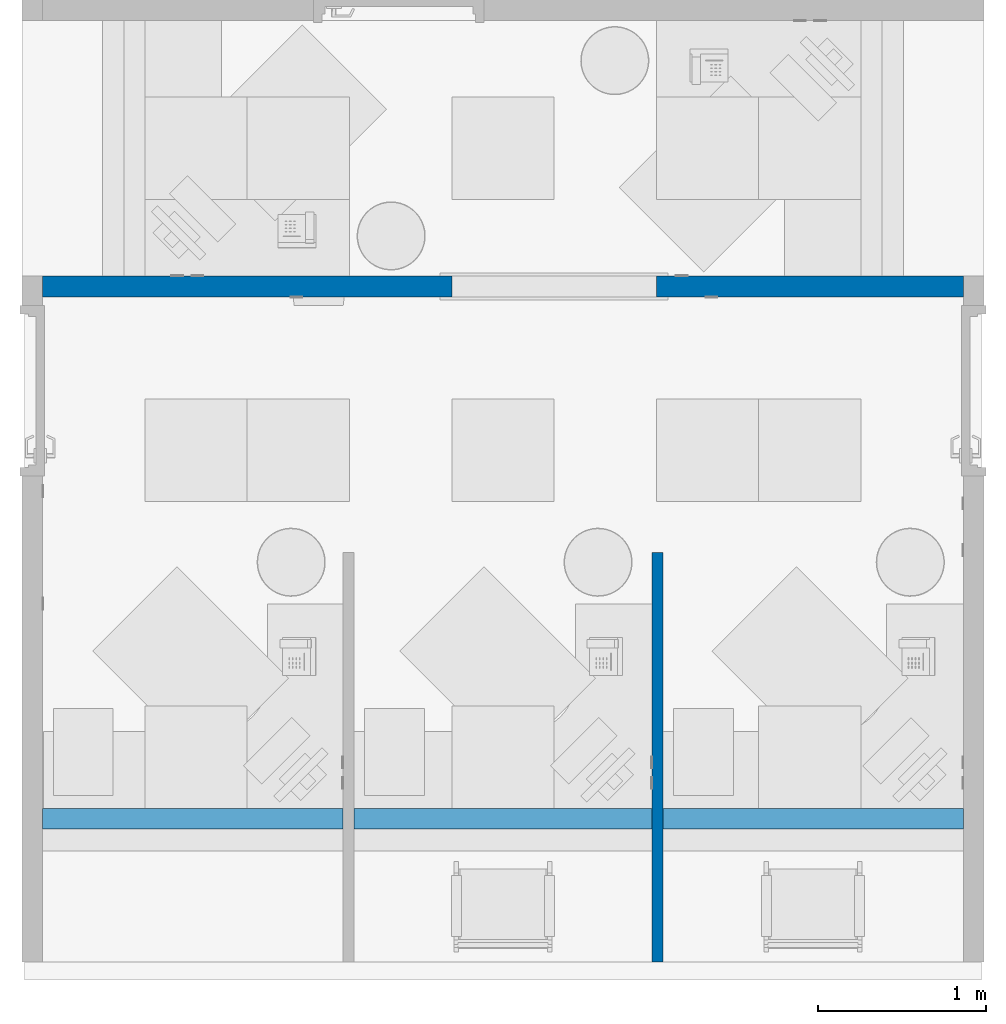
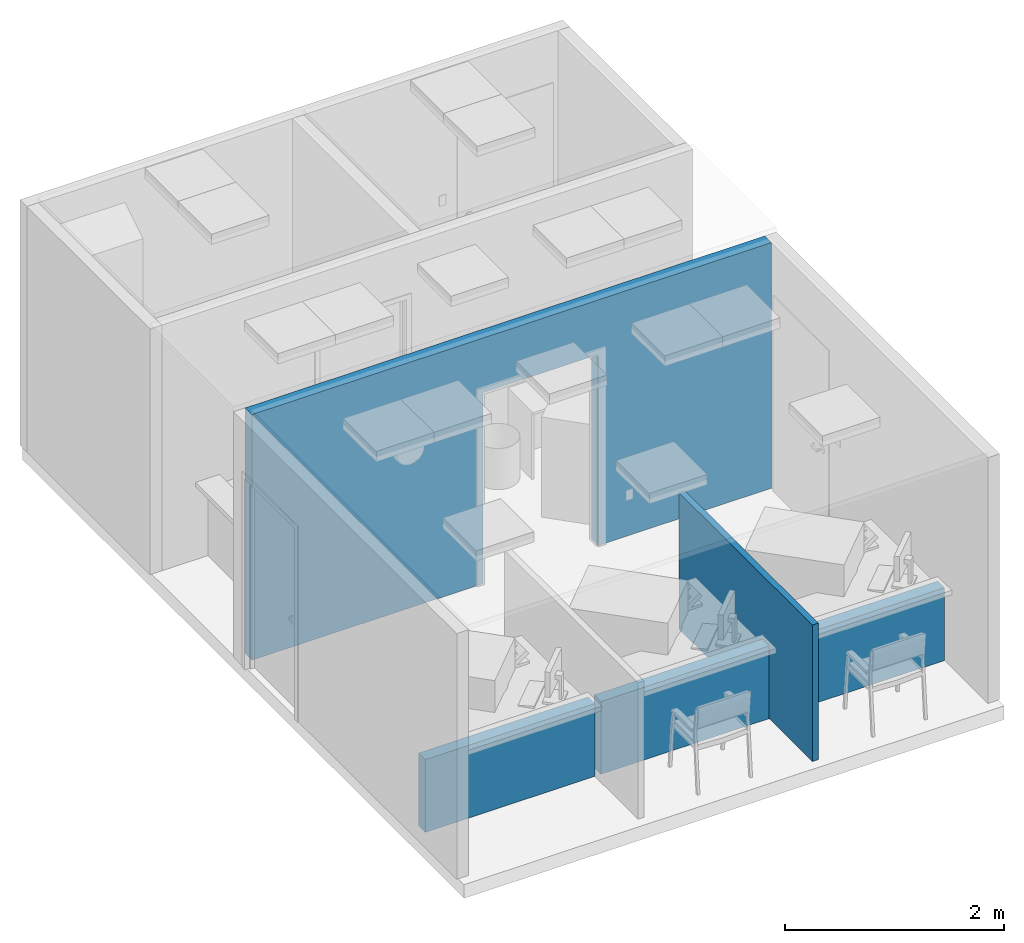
# One storey, part 2 of 20: 3 walls, 3 openings.
"""IFC2X3 building model written with IfcOpenShell, lengths in feet."""

from ifc_helpers import new_model, entity, si_unit, converted_unit, derived_unit, direction, frame, frame_2d, origin, origin_2d_with_axis, place, context, subcontext, project, spatial, rectangle, extrude, material, layer, layer_set, layer_usage, type_object, element, save


model = new_model("IFC2X3")

# Units and contexts
model_context = context("Model", 3, precision=0.0001, world=origin(), true_north=direction((6.12303176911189e-17, 1.0)))
body_context = subcontext(model_context, "Body", "Model", "MODEL_VIEW")
ifc_project = project(units=[converted_unit("LENGTHUNIT", "FOOT", entity("IfcRatioMeasure", 0.3048), si_unit("LENGTHUNIT", "METRE"), dimensions=[1, 0, 0, 0, 0, 0, 0]), converted_unit("AREAUNIT", "SQUARE FOOT", entity("IfcRatioMeasure", 0.09290304), si_unit("AREAUNIT", "SQUARE_METRE"), dimensions=[2, 0, 0, 0, 0, 0, 0]), converted_unit("VOLUMEUNIT", "CUBIC FOOT", entity("IfcRatioMeasure", 0.028316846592), si_unit("VOLUMEUNIT", "CUBIC_METRE"), dimensions=[3, 0, 0, 0, 0, 0, 0]), converted_unit("PLANEANGLEUNIT", "DEGREE", entity("IfcRatioMeasure", 0.0174532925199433), si_unit("PLANEANGLEUNIT", "RADIAN"), dimensions=[0, 0, 0, 0, 0, 0, 0]), si_unit("MASSUNIT", "GRAM", prefix="KILO"), derived_unit("MASSDENSITYUNIT", [(si_unit("MASSUNIT", "GRAM", prefix="KILO"), 1), (si_unit("LENGTHUNIT", "METRE"), -3)]), si_unit("TIMEUNIT", "SECOND"), si_unit("FREQUENCYUNIT", "HERTZ"), si_unit("THERMODYNAMICTEMPERATUREUNIT", "DEGREE_CELSIUS"), derived_unit("THERMALTRANSMITTANCEUNIT", [(si_unit("MASSUNIT", "GRAM", prefix="KILO"), 1), (si_unit("THERMODYNAMICTEMPERATUREUNIT", "KELVIN"), -1), (si_unit("TIMEUNIT", "SECOND"), -3)]), derived_unit("VOLUMETRICFLOWRATEUNIT", [(si_unit("LENGTHUNIT", "METRE"), 3), (si_unit("TIMEUNIT", "SECOND"), -1)]), si_unit("ELECTRICCURRENTUNIT", "AMPERE"), si_unit("ELECTRICVOLTAGEUNIT", "VOLT"), si_unit("POWERUNIT", "WATT"), si_unit("FORCEUNIT", "NEWTON"), si_unit("ILLUMINANCEUNIT", "LUX"), si_unit("LUMINOUSFLUXUNIT", "LUMEN"), si_unit("LUMINOUSINTENSITYUNIT", "CANDELA"), derived_unit("USERDEFINED", [(si_unit("MASSUNIT", "GRAM", prefix="KILO"), -1), (si_unit("LENGTHUNIT", "METRE"), -2), (si_unit("TIMEUNIT", "SECOND"), 3), (si_unit("LUMINOUSFLUXUNIT", "LUMEN"), 1)]), derived_unit("LINEARVELOCITYUNIT", [(si_unit("LENGTHUNIT", "METRE"), 1), (si_unit("TIMEUNIT", "SECOND"), -1)]), si_unit("PRESSUREUNIT", "PASCAL"), derived_unit("USERDEFINED", [(si_unit("LENGTHUNIT", "METRE"), -2), (si_unit("MASSUNIT", "GRAM", prefix="KILO"), 1), (si_unit("TIMEUNIT", "SECOND"), -2)])], contexts=[model_context])

# Site, building, storey
site_placement = place(None, origin())
site = spatial("IfcSite", under=ifc_project, at=site_placement, Name="Default", CompositionType="ELEMENT")
building_placement = place(site_placement, origin())
building = spatial("IfcBuilding", under=site, at=building_placement, Name="OUTPATIENT / PACT CLINIC (Ch. 265)", CompositionType="ELEMENT")
storey_placement = place(building_placement, origin())
storey = spatial("IfcBuildingStorey", under=building, at=storey_placement, Name="DATUM", CompositionType="ELEMENT", Elevation=0.0)

# Wall, opening
ifc_material = material(Name="<Unnamed>")
ifc_layer_1 = layer(ifc_material, 0.40625)
ifc_layer_set_1 = layer_set([ifc_layer_1], Name="Basic Wall:Interior - 4 7/8\"")
ifc_layer_usage_1 = layer_usage(ifc_layer_set_1, "AXIS2", "NEGATIVE", 0.203125)
wall_type_1 = type_object("IfcWallType", Name="Basic Wall:Interior - 4 7/8\"", PredefinedType="STANDARD", material=ifc_layer_set_1)
wall_1_placement = place(storey_placement, frame((56.2641134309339, -854.721714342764, 0.0)))
wall_1 = element("IfcWallStandardCase", 1, at=wall_1_placement, inside=storey, type_object=wall_type_1, material=ifc_layer_usage_1, Name="Basic Wall:Interior - 4 7/8\"", ObjectType="Basic Wall:Interior - 4 7/8\"", context=body_context, shape_type="SweptSolid", body=[
    extrude(rectangle(XDim=18.0, YDim=0.40625, at=frame_2d((9.00000000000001, 0.0), x_axis=(-1.0, 0.0))), origin(), (0.0, 0.0, 1.0), 9.0),
])
opening_1_placement = place(wall_1_placement, origin())
element("IfcOpeningElement", 2, at=opening_1_placement, cuts=wall_1, Name="Basic Wall:Interior - 4 7/8\"", ObjectType="Opening", context=body_context, shape_type="SweptSolid", body=[
    extrude(rectangle(XDim=7.0, YDim=3.99999999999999, at=frame_2d((0.0, 0.0), x_axis=(0.0, 1.0))), frame((10.0, -5.203125, 3.5), z_axis=(0.0, 1.0, 0.0), x_axis=(1.0, 0.0, 0.0)), (0.0, 0.0, 1.0), 10.0),
])

# Wall, openings
ifc_layer_usage_2 = layer_usage(ifc_layer_set_1, "AXIS2", "NEGATIVE", 0.203125)
wall_2_placement = place(storey_placement, frame((56.2641134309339, -865.127964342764, 0.0)))
wall_2 = element("IfcWallStandardCase", 3, at=wall_2_placement, inside=storey, type_object=wall_type_1, material=ifc_layer_usage_2, Name="Basic Wall:Interior - 4 7/8\"", ObjectType="Basic Wall:Interior - 4 7/8\"", context=body_context, shape_type="SweptSolid", body=[
    extrude(rectangle(XDim=18.0, YDim=0.40625, at=frame_2d((9.00000000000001, 0.0), x_axis=(-1.0, 0.0))), origin(), (0.0, 0.0, 1.0), 2.66666666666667),
])
opening_2_placement = place(storey_placement, frame((56.2641134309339, -865.127964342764, 0.0)))
element("IfcOpeningElement", 4, at=opening_2_placement, cuts=wall_2, Name="Basic Wall:Interior - 4 7/8\":1", ObjectType="Opening", context=body_context, shape_type="SweptSolid", body=[
    extrude(rectangle(XDim=2.66666666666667, YDim=0.40625, at=frame_2d((2.22044604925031e-16, 0.0), x_axis=(1.0, 0.0))), frame((5.87500000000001, 0.0, 1.33333333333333), z_axis=(1.0, 0.0, 0.0), x_axis=(0.0, 0.0, -1.0)), (0.0, 0.0, 1.0), 0.208333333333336),
])
opening_3_placement = place(storey_placement, frame((56.2641134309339, -865.127964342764, 0.0)))
element("IfcOpeningElement", 5, at=opening_3_placement, cuts=wall_2, Name="Basic Wall:Interior - 4 7/8\":2", ObjectType="Opening", context=body_context, shape_type="SweptSolid", body=[
    extrude(rectangle(XDim=2.66666666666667, YDim=0.40625, at=origin_2d_with_axis()), frame((11.9166666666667, 0.0, 1.33333333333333), z_axis=(1.0, 0.0, 0.0), x_axis=(0.0, 0.0, -1.0)), (0.0, 0.0, 1.0), 0.208333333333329),
])

# Wall
ifc_layer_2 = layer(ifc_material, 0.208333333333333)
ifc_layer_set_2 = layer_set([ifc_layer_2], Name="Basic Wall:Systems Wall")
ifc_layer_usage_3 = layer_usage(ifc_layer_set_2, "AXIS2", "NEGATIVE", 0.104166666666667)
wall_type_2 = type_object("IfcWallType", Name="Basic Wall:Systems Wall", PredefinedType="STANDARD", material=ifc_layer_set_2)
wall_3_placement = place(storey_placement, frame((68.2849467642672, -867.924839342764, 0.0), z_axis=(0.0, 0.0, 1.0), x_axis=(0.0, 1.0, 0.0)))
element("IfcWallStandardCase", 6, at=wall_3_placement, inside=storey, type_object=wall_type_2, material=ifc_layer_usage_3, Name="Basic Wall:Systems Wall", ObjectType="Basic Wall:Systems Wall", context=body_context, shape_type="SweptSolid", body=[
    extrude(rectangle(XDim=8.0, YDim=0.208333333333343, at=frame_2d((4.0, 0.0), x_axis=(-1.0, 0.0))), origin(), (0.0, 0.0, 1.0), 5.0),
])

save(model, "model.ifc")
